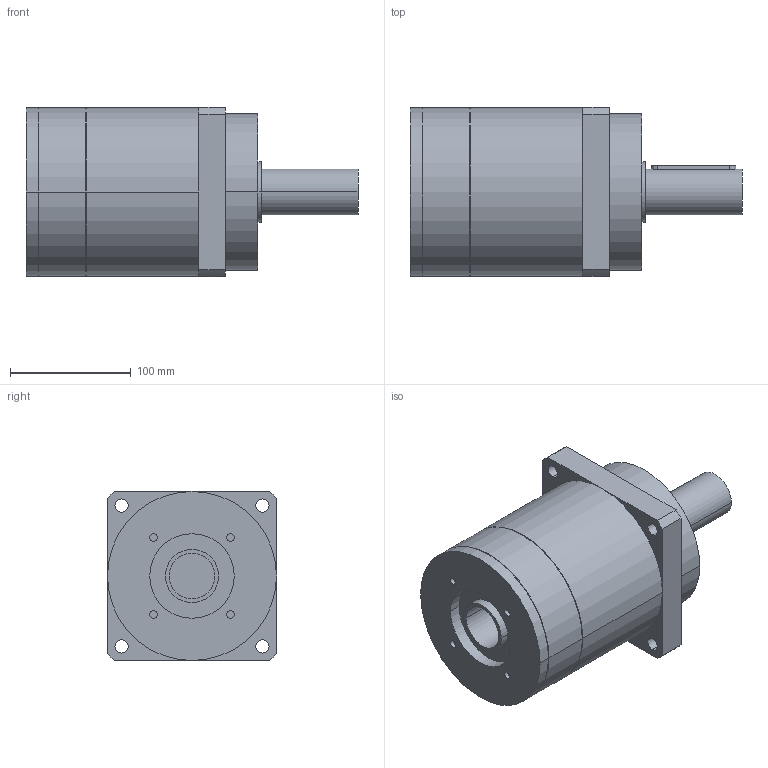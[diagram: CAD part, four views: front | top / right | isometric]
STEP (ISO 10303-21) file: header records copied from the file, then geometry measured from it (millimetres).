
FILE_DESCRIPTION(('CoCreate Modeling STEP Export'),'2;1');
FILE_NAME('GPR150_ig-3-4-5-7_38_B5_38_P15.stp','2014-08-19T16:43:37',(''),(''),'CoCreate Modeling STEP processor for AP214 (Solid Model)','CoCreate Modeling 16.00C 25-Feb-2009 (C) Parametric Technology GmbH','');
FILE_SCHEMA(('AUTOMOTIVE_DESIGN { 1 0 10303 214 1 1 1 1 }'));
Length unit declared in the file: millimetre
Products named in the file (2): GPR150_ig-3-4-5-7_38_B5_38_P15
Assembly tree (1 placements, depth 2):
  GPR150_ig-3-4-5-7_38_B5_38_P15
    GPR150_ig-3-4-5-7_38_B5_38_P15
Bounding box: 275 x 140 x 140 mm (x, y, z)
Volume: 2962376 mm3; surface area: 152688 mm2
Topology: 1 solids, 1 shells, 85 faces, 217 edges, 149 vertices
Faces by surface type: cylinder 50, plane 29, cone 6
Entity records: 2257 total; most frequent: ORIENTED_EDGE 430, CARTESIAN_POINT 415, DIRECTION 310, EDGE_CURVE 215, VERTEX_POINT 149, AXIS2_PLACEMENT_3D 116, EDGE_LOOP 110, FACE_OUTER_BOUND 85
